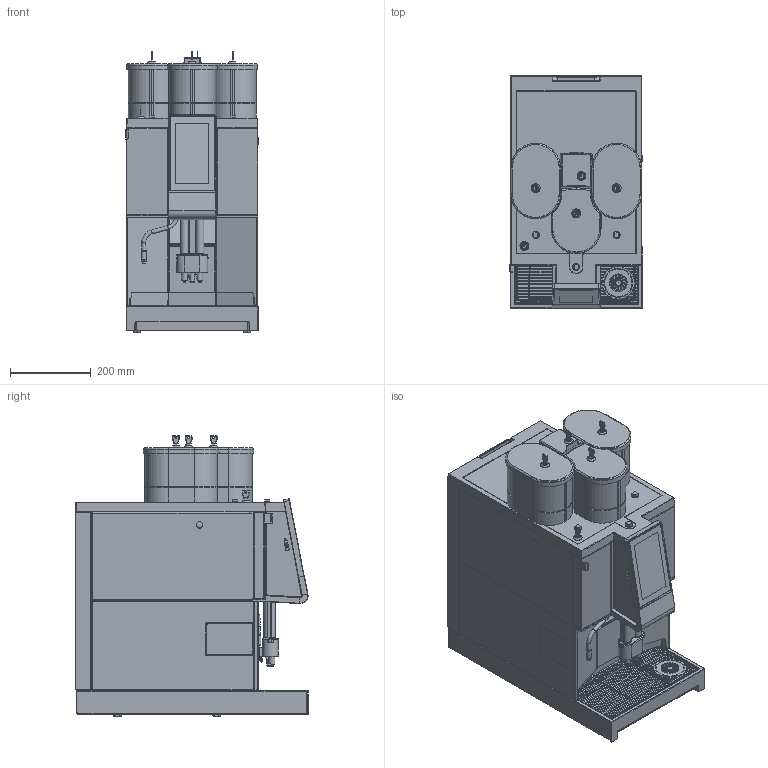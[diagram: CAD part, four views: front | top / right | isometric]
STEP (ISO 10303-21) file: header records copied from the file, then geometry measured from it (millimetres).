
FILE_DESCRIPTION(/* description */ (''),/* implementation_level */ '2;1');
FILE_NAME(/* name */ 'I:\projekte\wmf\2021\02\03.1350.0000_110_001\inv\am\03.1350.0000_3D.stp',/* time_stamp */ '2021-03-15T17:33:12+01:00',/* author */ (''),/* organization */ (''),/* preprocessor_version */ 'ST-DEVELOPER v18.1',/* originating_system */ 'Autodesk Inventor 2020',/* authorisation */ '');
FILE_SCHEMA (('AUTOMOTIVE_DESIGN { 1 0 10303 214 3 1 1 }'));
Products named in the file (1): 03.1350.0000_3D
Bounding box: 328.04 x 574.11 x 694.35 mm (x, y, z)
Volume: 85326269.1 mm3; surface area: 1979236.9 mm2
Topology: 4 solids, 5 shells, 3001 faces, 7794 edges, 4897 vertices
Faces by surface type: plane 1207, cylinder 989, bspline 362, torus 231, cone 128, sphere 84
Full cylindrical faces by diameter (mm): 0.6 x1, 2.5 x56, 2.7 x1, 3 x7, 3.13 x1, 3.5 x1, 5 x5, 5.2 x2, 6 x3, 7.6 x1, 8 x3, 8.3 x2, 10 x3, 10.3 x1, 12 x1, 12.482 x1, 13 x5, 14.4 x4, 16 x3, 17 x4, 17.5 x3, 18 x1, 19.4 x1, 22 x5
Entity records: 106613 total; most frequent: CARTESIAN_POINT 32917, ORIENTED_EDGE 15554, DIRECTION 15496, EDGE_CURVE 7777, AXIS2_PLACEMENT_3D 5776, VERTEX_POINT 4897, LINE 3944, VECTOR 3944
